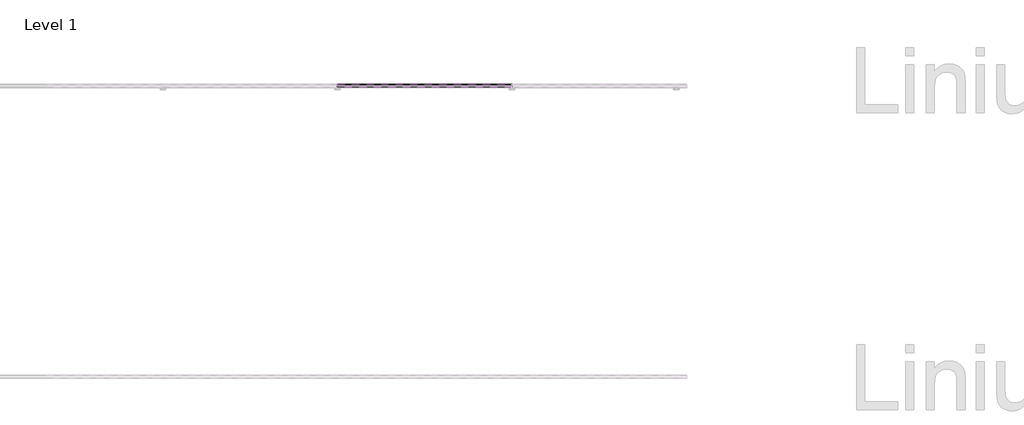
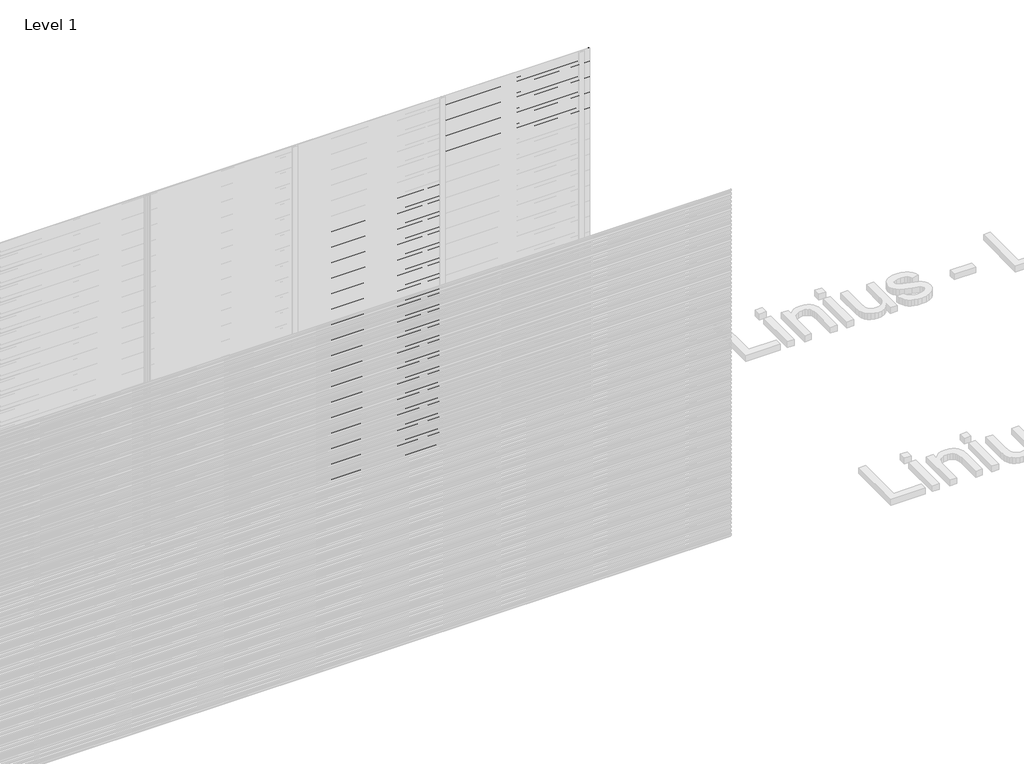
# One storey, part 63 of 507: 84 proxies.
"""IFC4 building model written with IfcOpenShell, lengths in millimetres."""

import ifcopenshell
import ifcopenshell.guid

model = None  # the IFC model being written
_history = None  # IfcOwnerHistory: only IFC2X3 demands one
_inside = {}  # id of a spatial element -> (the spatial element, [elements in it])
_under = {}  # id of a project, library or spatial element -> (it, [spatial elements below it])
_declared = {}  # id of a project -> (the project, [libraries it declares])
_typed = {}  # id of a type object -> (the type object, [elements of that type])
_made_of = {}  # id of a material, layer set ... -> (it, [elements and type objects made of it])


def new_model(schema):
    """Start an empty IFC model of exactly this schema.

    Asked for "IFC4X3", IfcOpenShell would pick the latest addendum, in which some entities
    have other attributes; the version numbers below select the first issue.
    IFC2X3 requires an IfcOwnerHistory on every rooted entity: one is made here for all.
    """
    global model, _history
    if schema == "IFC4X3":
        model = ifcopenshell.file(schema_version=(4, 3, 0, 0))
    else:
        model = ifcopenshell.file(schema=schema)
    _inside.clear()
    _under.clear()
    _declared.clear()
    _typed.clear()
    _made_of.clear()
    _history = None
    if model.schema == "IFC2X3":
        org = make("IfcOrganization", Name="unknown")
        user = make(
            "IfcPersonAndOrganization",
            ThePerson=make("IfcPerson", FamilyName="unknown"),
            TheOrganization=org,
        )
        app = make(
            "IfcApplication",
            ApplicationDeveloper=org,
            Version="unknown",
            ApplicationFullName="unknown",
            ApplicationIdentifier="unknown",
        )
        _history = make(
            "IfcOwnerHistory",
            OwningUser=user,
            OwningApplication=app,
            ChangeAction="ADDED",
            CreationDate=0,
        )
    return model


def make(cls, **values):
    """One entity of the class cls with the attributes given. An attribute that is None is left unset."""
    return model.create_entity(
        cls, **{name: value for name, value in values.items() if value is not None}
    )


def rooted(cls, **values):
    """An entity with a GlobalId (a new one), such as an element, a storey or a relation."""
    return make(cls, GlobalId=ifcopenshell.guid.new(), OwnerHistory=_history, **values)


def si_unit(unit_type, name, prefix=None):
    """IfcSIUnit, for example si_unit("LENGTHUNIT", "METRE", prefix="MILLI")."""
    return make("IfcSIUnit", UnitType=unit_type, Prefix=prefix, Name=name)


def assignment(units):
    """IfcUnitAssignment: the units of a project."""
    return None if units is None else make("IfcUnitAssignment", Units=units)


def point(xyz):
    """IfcCartesianPoint."""
    return None if xyz is None else make("IfcCartesianPoint", Coordinates=xyz)


def direction(xyz):
    """IfcDirection."""
    return None if xyz is None else make("IfcDirection", DirectionRatios=xyz)


def frame(location, z_axis=None, x_axis=None):
    """IfcAxis2Placement3D, a coordinate frame: its origin and axes. An axis left out is left unset."""
    return make(
        "IfcAxis2Placement3D",
        Location=point(location),
        Axis=direction(z_axis),
        RefDirection=direction(x_axis),
    )


def origin():
    """The frame at (0, 0, 0) with its axes left unset."""
    return frame((0.0, 0.0, 0.0))


def place(relative_to, where):
    """IfcLocalPlacement: puts the frame where relative to a parent placement (None: the world)."""
    return make(
        "IfcLocalPlacement", PlacementRelTo=relative_to, RelativePlacement=where
    )


def context(
    kind, dimensions, precision=None, world=None, true_north=None, identifier=None
):
    """IfcGeometricRepresentationContext, for example the 3D "Model" context."""
    return make(
        "IfcGeometricRepresentationContext",
        ContextIdentifier=identifier,
        ContextType=kind,
        CoordinateSpaceDimension=dimensions,
        Precision=precision,
        WorldCoordinateSystem=world,
        TrueNorth=true_north,
    )


def project(units=None, contexts=None):
    """IfcProject with its units and contexts."""
    return rooted(
        "IfcProject",
        Name="project",
        RepresentationContexts=contexts,
        UnitsInContext=assignment(units),
    )


def spatial(cls, under=None, at=None, **own):
    """A site, building, storey or space (cls), placed at a placement, below another one or the project."""
    s = rooted(cls, ObjectPlacement=at, **own)
    if under is not None:
        _under.setdefault(under.id(), (under, []))[1].append(s)
    return s


def polyline(points):
    """IfcPolyline through the points."""
    return make("IfcPolyline", Points=[point(p) for p in points])


def outline(outer, holes=None, kind="AREA"):
    """IfcArbitraryClosedProfileDef: a profile drawn as a closed curve; with holes, ...WithVoids."""
    if holes is None:
        return make("IfcArbitraryClosedProfileDef", ProfileType=kind, OuterCurve=outer)
    return make(
        "IfcArbitraryProfileDefWithVoids",
        ProfileType=kind,
        OuterCurve=outer,
        InnerCurves=holes,
    )


def extrude(swept, where, along, depth):
    """IfcExtrudedAreaSolid: the profile swept, set in the frame where, extruded along a direction by depth."""
    return make(
        "IfcExtrudedAreaSolid",
        SweptArea=swept,
        Position=where,
        ExtrudedDirection=direction(along),
        Depth=depth,
    )


def shape(context_of_items, identifier, shape_type, items):
    """IfcShapeRepresentation: the items that make up one representation, for example the "Body"."""
    return make(
        "IfcShapeRepresentation",
        ContextOfItems=context_of_items,
        RepresentationIdentifier=identifier,
        RepresentationType=shape_type,
        Items=items,
    )


def made_of(thing, what):
    """Note that an element or type object is made of a material, layer set ...; save() writes the relation."""
    if what is not None:
        _made_of.setdefault(what.id(), (what, []))[1].append(thing)
    return thing


def element(
    cls,
    number,
    at=None,
    inside=None,
    cuts=None,
    type_object=None,
    material=None,
    context=None,
    identifier="Body",
    shape_type=None,
    held_by="IfcProductDefinitionShape",
    body=None,
    shapes=None,
    **own,
):
    """One element of the class cls, such as IfcWall. Its Tag is "e" and its number.

    at: its placement. inside: the storey or other place that contains it. cuts: it is an
    opening in that element (IfcRelVoidsElement). A single representation is given by context,
    identifier, shape_type and body (its items); several are given by shapes. held_by: the class
    of the entity that holds the representations. save() writes the other relations.
    """
    e = rooted(cls, Tag="e%d" % number, ObjectPlacement=at, **own)
    if body is not None:
        shapes = [shape(context, identifier, shape_type, body)]
    if shapes is not None:
        e.Representation = make(held_by, Representations=shapes)
    if inside is not None:
        _inside.setdefault(inside.id(), (inside, []))[1].append(e)
    if cuts is not None:
        rooted(
            "IfcRelVoidsElement", RelatingBuildingElement=cuts, RelatedOpeningElement=e
        )
    if type_object is not None:
        _typed.setdefault(type_object.id(), (type_object, []))[1].append(e)
    return made_of(e, material)


def aggregate(whole, parts):
    """IfcRelAggregates: a whole, such as a stair, and the parts it consists of."""
    return rooted("IfcRelAggregates", RelatingObject=whole, RelatedObjects=parts)


def save(model, path):
    """Write the relations noted so far, then the file.

    IfcRelAggregates (storeys below a building ...), IfcRelContainedInSpatialStructure (elements
    in a storey), IfcRelDefinesByType, IfcRelAssociatesMaterial and IfcRelDeclares: one each for
    every whole, place, type object, material and project.
    """
    for whole, parts in _under.values():
        aggregate(whole, parts)
    for where, things in _inside.values():
        rooted(
            "IfcRelContainedInSpatialStructure",
            RelatedElements=things,
            RelatingStructure=where,
        )
    for kind, things in _typed.values():
        rooted("IfcRelDefinesByType", RelatedObjects=things, RelatingType=kind)
    for what, things in _made_of.values():
        rooted("IfcRelAssociatesMaterial", RelatedObjects=things, RelatingMaterial=what)
    for by, libraries in _declared.values():
        rooted("IfcRelDeclares", RelatingContext=by, RelatedDefinitions=libraries)
    model.write(path)


model = new_model("IFC4")

# Units and contexts
model_context = context("Model", 3, world=origin())
ifc_project = project(units=[si_unit("LENGTHUNIT", "METRE", prefix="MILLI")], contexts=[model_context])

# Site, building, storey
site = spatial("IfcSite", under=ifc_project)
building = spatial("IfcBuilding", under=site)
storey = spatial("IfcBuildingStorey", under=building, Name="Level 1", Elevation=0.0)

# Proxies
placement = place(None, origin())
element("IfcBuildingElementProxy", 1, Name="Wall Sweeps", at=placement, inside=storey, context=model_context, shape_type="SweptSolid", body=[
    extrude(outline(polyline([(44003.4540136, 2240.4), (44003.4540136, 2226.9), (44002.2040136, 2227.6216933), (44002.2040136, 2239.6782281), (43983.0540136, 2250.7345698), (43983.0540136, 2264.4), (43984.3040136, 2264.4), (43984.3040136, 2251.4562577), (44003.4540136, 2240.4)])), frame((48566.6208096, 0.0, 0.0), z_axis=(1.0, 0.0, 0.0), x_axis=(0.0, 1.0, 0.0)), (0.0, 0.0, 1.0), 1199.9999999),
])
element("IfcBuildingElementProxy", 2, Name="Wall Sweeps", at=placement, inside=storey, context=model_context, shape_type="SweptSolid", body=[
    extrude(outline(polyline([(44003.4540136, 2207.1), (44003.4540136, 2193.6), (44002.2040136, 2194.3216933), (44002.2040136, 2206.3782281), (43983.0540136, 2217.4345698), (43983.0540136, 2231.1), (43984.3040136, 2231.1), (43984.3040136, 2218.1562577), (44003.4540136, 2207.1)])), frame((48566.6208096, 0.0, 0.0), z_axis=(1.0, 0.0, 0.0), x_axis=(0.0, 1.0, 0.0)), (0.0, 0.0, 1.0), 1199.9999999),
])
element("IfcBuildingElementProxy", 3, Name="Wall Sweeps", at=placement, inside=storey, context=model_context, shape_type="SweptSolid", body=[
    extrude(outline(polyline([(44003.4540136, 2173.8), (44003.4540136, 2160.3), (44002.2040136, 2161.0216933), (44002.2040136, 2173.0782281), (43983.0540136, 2184.1345698), (43983.0540136, 2197.8), (43984.3040136, 2197.8), (43984.3040136, 2184.8562577), (44003.4540136, 2173.8)])), frame((48566.6208096, 0.0, 0.0), z_axis=(1.0, 0.0, 0.0), x_axis=(0.0, 1.0, 0.0)), (0.0, 0.0, 1.0), 1199.9999999),
])
element("IfcBuildingElementProxy", 4, Name="Wall Sweeps", at=placement, inside=storey, context=model_context, shape_type="SweptSolid", body=[
    extrude(outline(polyline([(44003.4540136, 2140.5), (44003.4540136, 2127.0), (44002.2040136, 2127.7216933), (44002.2040136, 2139.7782281), (43983.0540136, 2150.8345698), (43983.0540136, 2164.5), (43984.3040136, 2164.5), (43984.3040136, 2151.5562577), (44003.4540136, 2140.5)])), frame((48566.6208096, 0.0, 0.0), z_axis=(1.0, 0.0, 0.0), x_axis=(0.0, 1.0, 0.0)), (0.0, 0.0, 1.0), 1199.9999999),
])
element("IfcBuildingElementProxy", 5, Name="Wall Sweeps", at=placement, inside=storey, context=model_context, shape_type="SweptSolid", body=[
    extrude(outline(polyline([(44003.4540136, 2107.2), (44003.4540136, 2093.7), (44002.2040136, 2094.4216933), (44002.2040136, 2106.4782281), (43983.0540136, 2117.5345698), (43983.0540136, 2131.2), (43984.3040136, 2131.2), (43984.3040136, 2118.2562577), (44003.4540136, 2107.2)])), frame((48566.6208096, 0.0, 0.0), z_axis=(1.0, 0.0, 0.0), x_axis=(0.0, 1.0, 0.0)), (0.0, 0.0, 1.0), 1199.9999999),
])
element("IfcBuildingElementProxy", 6, Name="Wall Sweeps", at=placement, inside=storey, context=model_context, shape_type="SweptSolid", body=[
    extrude(outline(polyline([(44003.4540136, 2073.9), (44003.4540136, 2060.4), (44002.2040136, 2061.1216933), (44002.2040136, 2073.1782281), (43983.0540136, 2084.2345698), (43983.0540136, 2097.9), (43984.3040136, 2097.9), (43984.3040136, 2084.9562577), (44003.4540136, 2073.9)])), frame((48566.6208096, 0.0, 0.0), z_axis=(1.0, 0.0, 0.0), x_axis=(0.0, 1.0, 0.0)), (0.0, 0.0, 1.0), 1199.9999999),
])
element("IfcBuildingElementProxy", 7, Name="Wall Sweeps", at=placement, inside=storey, context=model_context, shape_type="SweptSolid", body=[
    extrude(outline(polyline([(44003.4540136, 2040.6), (44003.4540136, 2027.1), (44002.2040136, 2027.8216933), (44002.2040136, 2039.8782281), (43983.0540136, 2050.9345698), (43983.0540136, 2064.6), (43984.3040136, 2064.6), (43984.3040136, 2051.6562577), (44003.4540136, 2040.6)])), frame((48566.6208096, 0.0, 0.0), z_axis=(1.0, 0.0, 0.0), x_axis=(0.0, 1.0, 0.0)), (0.0, 0.0, 1.0), 1199.9999999),
])
element("IfcBuildingElementProxy", 8, Name="Wall Sweeps", at=placement, inside=storey, context=model_context, shape_type="SweptSolid", body=[
    extrude(outline(polyline([(44003.4540136, 2007.3), (44003.4540136, 1993.8), (44002.2040136, 1994.5216933), (44002.2040136, 2006.5782281), (43983.0540136, 2017.6345698), (43983.0540136, 2031.3), (43984.3040136, 2031.3), (43984.3040136, 2018.3562577), (44003.4540136, 2007.3)])), frame((48566.6208096, 0.0, 0.0), z_axis=(1.0, 0.0, 0.0), x_axis=(0.0, 1.0, 0.0)), (0.0, 0.0, 1.0), 1199.9999999),
])
element("IfcBuildingElementProxy", 9, Name="Wall Sweeps", at=placement, inside=storey, context=model_context, shape_type="SweptSolid", body=[
    extrude(outline(polyline([(44003.4540136, 1974.0), (44003.4540136, 1960.5), (44002.2040136, 1961.2216933), (44002.2040136, 1973.2782281), (43983.0540136, 1984.3345698), (43983.0540136, 1998.0), (43984.3040136, 1998.0), (43984.3040136, 1985.0562577), (44003.4540136, 1974.0)])), frame((48566.6208096, 0.0, 0.0), z_axis=(1.0, 0.0, 0.0), x_axis=(0.0, 1.0, 0.0)), (0.0, 0.0, 1.0), 1199.9999999),
])
element("IfcBuildingElementProxy", 10, Name="Wall Sweeps", at=placement, inside=storey, context=model_context, shape_type="SweptSolid", body=[
    extrude(outline(polyline([(44003.4540136, 1940.7), (44003.4540136, 1927.2), (44002.2040136, 1927.9216933), (44002.2040136, 1939.9782281), (43983.0540136, 1951.0345698), (43983.0540136, 1964.7), (43984.3040136, 1964.7), (43984.3040136, 1951.7562577), (44003.4540136, 1940.7)])), frame((48566.6208096, 0.0, 0.0), z_axis=(1.0, 0.0, 0.0), x_axis=(0.0, 1.0, 0.0)), (0.0, 0.0, 1.0), 1199.9999999),
])
element("IfcBuildingElementProxy", 11, Name="Wall Sweeps", at=placement, inside=storey, context=model_context, shape_type="SweptSolid", body=[
    extrude(outline(polyline([(44003.4540136, 1907.4), (44003.4540136, 1893.9), (44002.2040136, 1894.6216933), (44002.2040136, 1906.6782281), (43983.0540136, 1917.7345698), (43983.0540136, 1931.4), (43984.3040136, 1931.4), (43984.3040136, 1918.4562577), (44003.4540136, 1907.4)])), frame((48566.6208096, 0.0, 0.0), z_axis=(1.0, 0.0, 0.0), x_axis=(0.0, 1.0, 0.0)), (0.0, 0.0, 1.0), 1199.9999999),
])
element("IfcBuildingElementProxy", 12, Name="Wall Sweeps", at=placement, inside=storey, context=model_context, shape_type="SweptSolid", body=[
    extrude(outline(polyline([(44003.4540136, 1874.1), (44003.4540136, 1860.6), (44002.2040136, 1861.3216933), (44002.2040136, 1873.3782281), (43983.0540136, 1884.4345698), (43983.0540136, 1898.1), (43984.3040136, 1898.1), (43984.3040136, 1885.1562577), (44003.4540136, 1874.1)])), frame((48566.6208096, 0.0, 0.0), z_axis=(1.0, 0.0, 0.0), x_axis=(0.0, 1.0, 0.0)), (0.0, 0.0, 1.0), 1199.9999999),
])
element("IfcBuildingElementProxy", 13, Name="Wall Sweeps", at=placement, inside=storey, context=model_context, shape_type="SweptSolid", body=[
    extrude(outline(polyline([(44003.4540136, 1840.8), (44003.4540136, 1827.3), (44002.2040136, 1828.0216933), (44002.2040136, 1840.0782281), (43983.0540136, 1851.1345698), (43983.0540136, 1864.8), (43984.3040136, 1864.8), (43984.3040136, 1851.8562577), (44003.4540136, 1840.8)])), frame((48566.6208096, 0.0, 0.0), z_axis=(1.0, 0.0, 0.0), x_axis=(0.0, 1.0, 0.0)), (0.0, 0.0, 1.0), 1199.9999999),
])
element("IfcBuildingElementProxy", 14, Name="Wall Sweeps", at=placement, inside=storey, context=model_context, shape_type="SweptSolid", body=[
    extrude(outline(polyline([(44003.4540136, 1807.5), (44003.4540136, 1794.0), (44002.2040136, 1794.7216933), (44002.2040136, 1806.7782281), (43983.0540136, 1817.8345698), (43983.0540136, 1831.5), (43984.3040136, 1831.5), (43984.3040136, 1818.5562577), (44003.4540136, 1807.5)])), frame((48566.6208096, 0.0, 0.0), z_axis=(1.0, 0.0, 0.0), x_axis=(0.0, 1.0, 0.0)), (0.0, 0.0, 1.0), 1199.9999999),
])
element("IfcBuildingElementProxy", 15, Name="Wall Sweeps", at=placement, inside=storey, context=model_context, shape_type="SweptSolid", body=[
    extrude(outline(polyline([(44003.4540136, 1774.2), (44003.4540136, 1760.7), (44002.2040136, 1761.4216933), (44002.2040136, 1773.4782281), (43983.0540136, 1784.5345698), (43983.0540136, 1798.2), (43984.3040136, 1798.2), (43984.3040136, 1785.2562577), (44003.4540136, 1774.2)])), frame((48566.6208096, 0.0, 0.0), z_axis=(1.0, 0.0, 0.0), x_axis=(0.0, 1.0, 0.0)), (0.0, 0.0, 1.0), 1199.9999999),
])
element("IfcBuildingElementProxy", 16, Name="Wall Sweeps", at=placement, inside=storey, context=model_context, shape_type="SweptSolid", body=[
    extrude(outline(polyline([(44003.4540136, 1740.9), (44003.4540136, 1727.4), (44002.2040136, 1728.1216933), (44002.2040136, 1740.1782281), (43983.0540136, 1751.2345698), (43983.0540136, 1764.9), (43984.3040136, 1764.9), (43984.3040136, 1751.9562577), (44003.4540136, 1740.9)])), frame((48566.6208096, 0.0, 0.0), z_axis=(1.0, 0.0, 0.0), x_axis=(0.0, 1.0, 0.0)), (0.0, 0.0, 1.0), 1199.9999999),
])
element("IfcBuildingElementProxy", 17, Name="Wall Sweeps", at=placement, inside=storey, context=model_context, shape_type="SweptSolid", body=[
    extrude(outline(polyline([(44003.4540136, 1707.6), (44003.4540136, 1694.1), (44002.2040136, 1694.8216933), (44002.2040136, 1706.8782281), (43983.0540136, 1717.9345698), (43983.0540136, 1731.6), (43984.3040136, 1731.6), (43984.3040136, 1718.6562577), (44003.4540136, 1707.6)])), frame((48566.6208096, 0.0, 0.0), z_axis=(1.0, 0.0, 0.0), x_axis=(0.0, 1.0, 0.0)), (0.0, 0.0, 1.0), 1199.9999999),
])
element("IfcBuildingElementProxy", 18, Name="Wall Sweeps", at=placement, inside=storey, context=model_context, shape_type="SweptSolid", body=[
    extrude(outline(polyline([(44003.4540136, 1674.3), (44003.4540136, 1660.8), (44002.2040136, 1661.5216933), (44002.2040136, 1673.5782281), (43983.0540136, 1684.6345698), (43983.0540136, 1698.3), (43984.3040136, 1698.3), (43984.3040136, 1685.3562577), (44003.4540136, 1674.3)])), frame((48566.6208096, 0.0, 0.0), z_axis=(1.0, 0.0, 0.0), x_axis=(0.0, 1.0, 0.0)), (0.0, 0.0, 1.0), 1199.9999999),
])
element("IfcBuildingElementProxy", 19, Name="Wall Sweeps", at=placement, inside=storey, context=model_context, shape_type="SweptSolid", body=[
    extrude(outline(polyline([(44003.4540136, 1641.0), (44003.4540136, 1627.5), (44002.2040136, 1628.2216933), (44002.2040136, 1640.2782281), (43983.0540136, 1651.3345698), (43983.0540136, 1665.0), (43984.3040136, 1665.0), (43984.3040136, 1652.0562577), (44003.4540136, 1641.0)])), frame((48566.6208096, 0.0, 0.0), z_axis=(1.0, 0.0, 0.0), x_axis=(0.0, 1.0, 0.0)), (0.0, 0.0, 1.0), 1199.9999999),
])
element("IfcBuildingElementProxy", 20, Name="Wall Sweeps", at=placement, inside=storey, context=model_context, shape_type="SweptSolid", body=[
    extrude(outline(polyline([(44003.4540136, 1607.7), (44003.4540136, 1594.2), (44002.2040136, 1594.9216933), (44002.2040136, 1606.9782281), (43983.0540136, 1618.0345698), (43983.0540136, 1631.7), (43984.3040136, 1631.7), (43984.3040136, 1618.7562577), (44003.4540136, 1607.7)])), frame((48566.6208096, 0.0, 0.0), z_axis=(1.0, 0.0, 0.0), x_axis=(0.0, 1.0, 0.0)), (0.0, 0.0, 1.0), 1199.9999999),
])
element("IfcBuildingElementProxy", 21, Name="Wall Sweeps", at=placement, inside=storey, context=model_context, shape_type="SweptSolid", body=[
    extrude(outline(polyline([(44003.4540136, 1574.4), (44003.4540136, 1560.9), (44002.2040136, 1561.6216933), (44002.2040136, 1573.6782281), (43983.0540136, 1584.7345698), (43983.0540136, 1598.4), (43984.3040136, 1598.4), (43984.3040136, 1585.4562577), (44003.4540136, 1574.4)])), frame((48566.6208096, 0.0, 0.0), z_axis=(1.0, 0.0, 0.0), x_axis=(0.0, 1.0, 0.0)), (0.0, 0.0, 1.0), 1199.9999999),
])
element("IfcBuildingElementProxy", 22, Name="Wall Sweeps", at=placement, inside=storey, context=model_context, shape_type="SweptSolid", body=[
    extrude(outline(polyline([(44003.4540136, 1541.1), (44003.4540136, 1527.6), (44002.2040136, 1528.3216933), (44002.2040136, 1540.3782281), (43983.0540136, 1551.4345698), (43983.0540136, 1565.1), (43984.3040136, 1565.1), (43984.3040136, 1552.1562577), (44003.4540136, 1541.1)])), frame((48566.6208096, 0.0, 0.0), z_axis=(1.0, 0.0, 0.0), x_axis=(0.0, 1.0, 0.0)), (0.0, 0.0, 1.0), 1199.9999999),
])
element("IfcBuildingElementProxy", 23, Name="Wall Sweeps", at=placement, inside=storey, context=model_context, shape_type="SweptSolid", body=[
    extrude(outline(polyline([(44003.4540136, 1507.8), (44003.4540136, 1494.3), (44002.2040136, 1495.0216933), (44002.2040136, 1507.0782281), (43983.0540136, 1518.1345698), (43983.0540136, 1531.8), (43984.3040136, 1531.8), (43984.3040136, 1518.8562577), (44003.4540136, 1507.8)])), frame((48566.6208096, 0.0, 0.0), z_axis=(1.0, 0.0, 0.0), x_axis=(0.0, 1.0, 0.0)), (0.0, 0.0, 1.0), 1199.9999999),
])
element("IfcBuildingElementProxy", 24, Name="Wall Sweeps", at=placement, inside=storey, context=model_context, shape_type="SweptSolid", body=[
    extrude(outline(polyline([(44003.4540136, 1474.5), (44003.4540136, 1461.0), (44002.2040136, 1461.7216933), (44002.2040136, 1473.7782281), (43983.0540136, 1484.8345698), (43983.0540136, 1498.5), (43984.3040136, 1498.5), (43984.3040136, 1485.5562577), (44003.4540136, 1474.5)])), frame((48566.6208096, 0.0, 0.0), z_axis=(1.0, 0.0, 0.0), x_axis=(0.0, 1.0, 0.0)), (0.0, 0.0, 1.0), 1199.9999999),
])
element("IfcBuildingElementProxy", 25, Name="Wall Sweeps", at=placement, inside=storey, context=model_context, shape_type="SweptSolid", body=[
    extrude(outline(polyline([(44003.4540136, 1441.2), (44003.4540136, 1427.7), (44002.2040136, 1428.4216933), (44002.2040136, 1440.4782281), (43983.0540136, 1451.5345698), (43983.0540136, 1465.2), (43984.3040136, 1465.2), (43984.3040136, 1452.2562577), (44003.4540136, 1441.2)])), frame((48566.6208096, 0.0, 0.0), z_axis=(1.0, 0.0, 0.0), x_axis=(0.0, 1.0, 0.0)), (0.0, 0.0, 1.0), 1199.9999999),
])
element("IfcBuildingElementProxy", 26, Name="Wall Sweeps", at=placement, inside=storey, context=model_context, shape_type="SweptSolid", body=[
    extrude(outline(polyline([(44003.4540136, 1407.9), (44003.4540136, 1394.4), (44002.2040136, 1395.1216933), (44002.2040136, 1407.1782281), (43983.0540136, 1418.2345698), (43983.0540136, 1431.9), (43984.3040136, 1431.9), (43984.3040136, 1418.9562577), (44003.4540136, 1407.9)])), frame((48566.6208096, 0.0, 0.0), z_axis=(1.0, 0.0, 0.0), x_axis=(0.0, 1.0, 0.0)), (0.0, 0.0, 1.0), 1199.9999999),
])
element("IfcBuildingElementProxy", 27, Name="Wall Sweeps", at=placement, inside=storey, context=model_context, shape_type="SweptSolid", body=[
    extrude(outline(polyline([(44003.4540136, 1374.6), (44003.4540136, 1361.1), (44002.2040136, 1361.8216933), (44002.2040136, 1373.8782281), (43983.0540136, 1384.9345698), (43983.0540136, 1398.6), (43984.3040136, 1398.6), (43984.3040136, 1385.6562577), (44003.4540136, 1374.6)])), frame((48566.6208096, 0.0, 0.0), z_axis=(1.0, 0.0, 0.0), x_axis=(0.0, 1.0, 0.0)), (0.0, 0.0, 1.0), 1199.9999999),
])
element("IfcBuildingElementProxy", 28, Name="Wall Sweeps", at=placement, inside=storey, context=model_context, shape_type="SweptSolid", body=[
    extrude(outline(polyline([(44003.4540136, 1341.3), (44003.4540136, 1327.8), (44002.2040136, 1328.5216933), (44002.2040136, 1340.5782281), (43983.0540136, 1351.6345698), (43983.0540136, 1365.3), (43984.3040136, 1365.3), (43984.3040136, 1352.3562577), (44003.4540136, 1341.3)])), frame((48566.6208096, 0.0, 0.0), z_axis=(1.0, 0.0, 0.0), x_axis=(0.0, 1.0, 0.0)), (0.0, 0.0, 1.0), 1199.9999999),
])
element("IfcBuildingElementProxy", 29, Name="Wall Sweeps", at=placement, inside=storey, context=model_context, shape_type="SweptSolid", body=[
    extrude(outline(polyline([(44003.4540136, 1308.0), (44003.4540136, 1294.5), (44002.2040136, 1295.2216933), (44002.2040136, 1307.2782281), (43983.0540136, 1318.3345698), (43983.0540136, 1332.0), (43984.3040136, 1332.0), (43984.3040136, 1319.0562577), (44003.4540136, 1308.0)])), frame((48566.6208096, 0.0, 0.0), z_axis=(1.0, 0.0, 0.0), x_axis=(0.0, 1.0, 0.0)), (0.0, 0.0, 1.0), 1199.9999999),
])
element("IfcBuildingElementProxy", 30, Name="Wall Sweeps", at=placement, inside=storey, context=model_context, shape_type="SweptSolid", body=[
    extrude(outline(polyline([(44003.4540136, 1274.7), (44003.4540136, 1261.2), (44002.2040136, 1261.9216933), (44002.2040136, 1273.9782281), (43983.0540136, 1285.0345698), (43983.0540136, 1298.7), (43984.3040136, 1298.7), (43984.3040136, 1285.7562577), (44003.4540136, 1274.7)])), frame((48566.6208096, 0.0, 0.0), z_axis=(1.0, 0.0, 0.0), x_axis=(0.0, 1.0, 0.0)), (0.0, 0.0, 1.0), 1199.9999999),
])
element("IfcBuildingElementProxy", 31, Name="Wall Sweeps", at=placement, inside=storey, context=model_context, shape_type="SweptSolid", body=[
    extrude(outline(polyline([(44003.4540136, 1241.4), (44003.4540136, 1227.9), (44002.2040136, 1228.6216933), (44002.2040136, 1240.6782281), (43983.0540136, 1251.7345698), (43983.0540136, 1265.4), (43984.3040136, 1265.4), (43984.3040136, 1252.4562577), (44003.4540136, 1241.4)])), frame((48566.6208096, 0.0, 0.0), z_axis=(1.0, 0.0, 0.0), x_axis=(0.0, 1.0, 0.0)), (0.0, 0.0, 1.0), 1199.9999999),
])
element("IfcBuildingElementProxy", 32, Name="Wall Sweeps", at=placement, inside=storey, context=model_context, shape_type="SweptSolid", body=[
    extrude(outline(polyline([(44003.4540136, 1208.1), (44003.4540136, 1194.6), (44002.2040136, 1195.3216933), (44002.2040136, 1207.3782281), (43983.0540136, 1218.4345698), (43983.0540136, 1232.1), (43984.3040136, 1232.1), (43984.3040136, 1219.1562577), (44003.4540136, 1208.1)])), frame((48566.6208096, 0.0, 0.0), z_axis=(1.0, 0.0, 0.0), x_axis=(0.0, 1.0, 0.0)), (0.0, 0.0, 1.0), 1199.9999999),
])
element("IfcBuildingElementProxy", 33, Name="Wall Sweeps", at=placement, inside=storey, context=model_context, shape_type="SweptSolid", body=[
    extrude(outline(polyline([(44003.4540136, 1174.8), (44003.4540136, 1161.3), (44002.2040136, 1162.0216933), (44002.2040136, 1174.0782281), (43983.0540136, 1185.1345698), (43983.0540136, 1198.8), (43984.3040136, 1198.8), (43984.3040136, 1185.8562577), (44003.4540136, 1174.8)])), frame((48566.6208096, 0.0, 0.0), z_axis=(1.0, 0.0, 0.0), x_axis=(0.0, 1.0, 0.0)), (0.0, 0.0, 1.0), 1199.9999999),
])
element("IfcBuildingElementProxy", 34, Name="Wall Sweeps", at=placement, inside=storey, context=model_context, shape_type="SweptSolid", body=[
    extrude(outline(polyline([(44003.4540136, 1141.5), (44003.4540136, 1128.0), (44002.2040136, 1128.7216933), (44002.2040136, 1140.7782281), (43983.0540136, 1151.8345698), (43983.0540136, 1165.5), (43984.3040136, 1165.5), (43984.3040136, 1152.5562577), (44003.4540136, 1141.5)])), frame((48566.6208096, 0.0, 0.0), z_axis=(1.0, 0.0, 0.0), x_axis=(0.0, 1.0, 0.0)), (0.0, 0.0, 1.0), 1199.9999999),
])
element("IfcBuildingElementProxy", 35, Name="Wall Sweeps", at=placement, inside=storey, context=model_context, shape_type="SweptSolid", body=[
    extrude(outline(polyline([(44003.4540136, 1108.2), (44003.4540136, 1094.7), (44002.2040136, 1095.4216933), (44002.2040136, 1107.4782281), (43983.0540136, 1118.5345698), (43983.0540136, 1132.2), (43984.3040136, 1132.2), (43984.3040136, 1119.2562577), (44003.4540136, 1108.2)])), frame((48566.6208096, 0.0, 0.0), z_axis=(1.0, 0.0, 0.0), x_axis=(0.0, 1.0, 0.0)), (0.0, 0.0, 1.0), 1199.9999999),
])
element("IfcBuildingElementProxy", 36, Name="Wall Sweeps", at=placement, inside=storey, context=model_context, shape_type="SweptSolid", body=[
    extrude(outline(polyline([(44003.4540136, 1074.9), (44003.4540136, 1061.4), (44002.2040136, 1062.1216933), (44002.2040136, 1074.1782281), (43983.0540136, 1085.2345698), (43983.0540136, 1098.9), (43984.3040136, 1098.9), (43984.3040136, 1085.9562577), (44003.4540136, 1074.9)])), frame((48566.6208096, 0.0, 0.0), z_axis=(1.0, 0.0, 0.0), x_axis=(0.0, 1.0, 0.0)), (0.0, 0.0, 1.0), 1199.9999999),
])
element("IfcBuildingElementProxy", 37, Name="Wall Sweeps", at=placement, inside=storey, context=model_context, shape_type="SweptSolid", body=[
    extrude(outline(polyline([(44003.4540136, 1041.6), (44003.4540136, 1028.1), (44002.2040136, 1028.8216933), (44002.2040136, 1040.8782281), (43983.0540136, 1051.9345698), (43983.0540136, 1065.6), (43984.3040136, 1065.6), (43984.3040136, 1052.6562577), (44003.4540136, 1041.6)])), frame((48566.6208096, 0.0, 0.0), z_axis=(1.0, 0.0, 0.0), x_axis=(0.0, 1.0, 0.0)), (0.0, 0.0, 1.0), 1199.9999999),
])
element("IfcBuildingElementProxy", 38, Name="Wall Sweeps", at=placement, inside=storey, context=model_context, shape_type="SweptSolid", body=[
    extrude(outline(polyline([(44003.4540136, 1008.3), (44003.4540136, 994.8), (44002.2040136, 995.5216933), (44002.2040136, 1007.5782281), (43983.0540136, 1018.6345698), (43983.0540136, 1032.3), (43984.3040136, 1032.3), (43984.3040136, 1019.3562577), (44003.4540136, 1008.3)])), frame((48566.6208096, 0.0, 0.0), z_axis=(1.0, 0.0, 0.0), x_axis=(0.0, 1.0, 0.0)), (0.0, 0.0, 1.0), 1199.9999999),
])
element("IfcBuildingElementProxy", 39, Name="Wall Sweeps", at=placement, inside=storey, context=model_context, shape_type="SweptSolid", body=[
    extrude(outline(polyline([(44003.4540136, 975.0), (44003.4540136, 961.5), (44002.2040136, 962.2216933), (44002.2040136, 974.2782281), (43983.0540136, 985.3345698), (43983.0540136, 999.0), (43984.3040136, 999.0), (43984.3040136, 986.0562577), (44003.4540136, 975.0)])), frame((48566.6208096, 0.0, 0.0), z_axis=(1.0, 0.0, 0.0), x_axis=(0.0, 1.0, 0.0)), (0.0, 0.0, 1.0), 1199.9999999),
])
element("IfcBuildingElementProxy", 40, Name="Wall Sweeps", at=placement, inside=storey, context=model_context, shape_type="SweptSolid", body=[
    extrude(outline(polyline([(44003.4540136, 941.7), (44003.4540136, 928.2), (44002.2040136, 928.9216933), (44002.2040136, 940.9782281), (43983.0540136, 952.0345698), (43983.0540136, 965.7), (43984.3040136, 965.7), (43984.3040136, 952.7562577), (44003.4540136, 941.7)])), frame((48566.6208096, 0.0, 0.0), z_axis=(1.0, 0.0, 0.0), x_axis=(0.0, 1.0, 0.0)), (0.0, 0.0, 1.0), 1199.9999999),
])
element("IfcBuildingElementProxy", 41, Name="Wall Sweeps", at=placement, inside=storey, context=model_context, shape_type="SweptSolid", body=[
    extrude(outline(polyline([(44003.4540136, 908.4), (44003.4540136, 894.9), (44002.2040136, 895.6216933), (44002.2040136, 907.6782281), (43983.0540136, 918.7345698), (43983.0540136, 932.4), (43984.3040136, 932.4), (43984.3040136, 919.4562577), (44003.4540136, 908.4)])), frame((48566.6208096, 0.0, 0.0), z_axis=(1.0, 0.0, 0.0), x_axis=(0.0, 1.0, 0.0)), (0.0, 0.0, 1.0), 1199.9999999),
])
element("IfcBuildingElementProxy", 42, Name="Wall Sweeps", at=placement, inside=storey, context=model_context, shape_type="SweptSolid", body=[
    extrude(outline(polyline([(44003.4540136, 875.1), (44003.4540136, 861.6), (44002.2040136, 862.3216933), (44002.2040136, 874.3782281), (43983.0540136, 885.4345698), (43983.0540136, 899.1), (43984.3040136, 899.1), (43984.3040136, 886.1562577), (44003.4540136, 875.1)])), frame((48566.6208096, 0.0, 0.0), z_axis=(1.0, 0.0, 0.0), x_axis=(0.0, 1.0, 0.0)), (0.0, 0.0, 1.0), 1199.9999999),
])
element("IfcBuildingElementProxy", 43, Name="Wall Sweeps", at=placement, inside=storey, context=model_context, shape_type="SweptSolid", body=[
    extrude(outline(polyline([(44003.4540136, 841.8), (44003.4540136, 828.3), (44002.2040136, 829.0216933), (44002.2040136, 841.0782281), (43983.0540136, 852.1345698), (43983.0540136, 865.8), (43984.3040136, 865.8), (43984.3040136, 852.8562577), (44003.4540136, 841.8)])), frame((48566.6208096, 0.0, 0.0), z_axis=(1.0, 0.0, 0.0), x_axis=(0.0, 1.0, 0.0)), (0.0, 0.0, 1.0), 1199.9999999),
])
element("IfcBuildingElementProxy", 44, Name="Wall Sweeps", at=placement, inside=storey, context=model_context, shape_type="SweptSolid", body=[
    extrude(outline(polyline([(44003.4540136, 808.5), (44003.4540136, 795.0), (44002.2040136, 795.7216933), (44002.2040136, 807.7782281), (43983.0540136, 818.8345698), (43983.0540136, 832.5), (43984.3040136, 832.5), (43984.3040136, 819.5562577), (44003.4540136, 808.5)])), frame((48566.6208096, 0.0, 0.0), z_axis=(1.0, 0.0, 0.0), x_axis=(0.0, 1.0, 0.0)), (0.0, 0.0, 1.0), 1199.9999999),
])
element("IfcBuildingElementProxy", 45, Name="Wall Sweeps", at=placement, inside=storey, context=model_context, shape_type="SweptSolid", body=[
    extrude(outline(polyline([(44003.4540136, 775.2), (44003.4540136, 761.7), (44002.2040136, 762.4216933), (44002.2040136, 774.4782281), (43983.0540136, 785.5345698), (43983.0540136, 799.2), (43984.3040136, 799.2), (43984.3040136, 786.2562577), (44003.4540136, 775.2)])), frame((48566.6208096, 0.0, 0.0), z_axis=(1.0, 0.0, 0.0), x_axis=(0.0, 1.0, 0.0)), (0.0, 0.0, 1.0), 1199.9999999),
])
element("IfcBuildingElementProxy", 46, Name="Wall Sweeps", at=placement, inside=storey, context=model_context, shape_type="SweptSolid", body=[
    extrude(outline(polyline([(44003.4540136, 741.9), (44003.4540136, 728.4), (44002.2040136, 729.1216933), (44002.2040136, 741.1782281), (43983.0540136, 752.2345698), (43983.0540136, 765.9), (43984.3040136, 765.9), (43984.3040136, 752.9562577), (44003.4540136, 741.9)])), frame((48566.6208096, 0.0, 0.0), z_axis=(1.0, 0.0, 0.0), x_axis=(0.0, 1.0, 0.0)), (0.0, 0.0, 1.0), 1199.9999999),
])
element("IfcBuildingElementProxy", 47, Name="Wall Sweeps", at=placement, inside=storey, context=model_context, shape_type="SweptSolid", body=[
    extrude(outline(polyline([(44003.4540136, 708.6), (44003.4540136, 695.1), (44002.2040136, 695.8216933), (44002.2040136, 707.8782281), (43983.0540136, 718.9345698), (43983.0540136, 732.6), (43984.3040136, 732.6), (43984.3040136, 719.6562577), (44003.4540136, 708.6)])), frame((48566.6208096, 0.0, 0.0), z_axis=(1.0, 0.0, 0.0), x_axis=(0.0, 1.0, 0.0)), (0.0, 0.0, 1.0), 1199.9999999),
])
element("IfcBuildingElementProxy", 48, Name="Wall Sweeps", at=placement, inside=storey, context=model_context, shape_type="SweptSolid", body=[
    extrude(outline(polyline([(44003.4540136, 675.3), (44003.4540136, 661.8), (44002.2040136, 662.5216933), (44002.2040136, 674.5782281), (43983.0540136, 685.6345698), (43983.0540136, 699.3), (43984.3040136, 699.3), (43984.3040136, 686.3562577), (44003.4540136, 675.3)])), frame((48566.6208096, 0.0, 0.0), z_axis=(1.0, 0.0, 0.0), x_axis=(0.0, 1.0, 0.0)), (0.0, 0.0, 1.0), 1199.9999999),
])
element("IfcBuildingElementProxy", 49, Name="Wall Sweeps", at=placement, inside=storey, context=model_context, shape_type="SweptSolid", body=[
    extrude(outline(polyline([(44003.4540136, 642.0), (44003.4540136, 628.5), (44002.2040136, 629.2216933), (44002.2040136, 641.2782281), (43983.0540136, 652.3345698), (43983.0540136, 666.0), (43984.3040136, 666.0), (43984.3040136, 653.0562577), (44003.4540136, 642.0)])), frame((48566.6208096, 0.0, 0.0), z_axis=(1.0, 0.0, 0.0), x_axis=(0.0, 1.0, 0.0)), (0.0, 0.0, 1.0), 1199.9999999),
])
element("IfcBuildingElementProxy", 50, Name="Wall Sweeps", at=placement, inside=storey, context=model_context, shape_type="SweptSolid", body=[
    extrude(outline(polyline([(44003.4540136, 608.7), (44003.4540136, 595.2), (44002.2040136, 595.9216933), (44002.2040136, 607.9782281), (43983.0540136, 619.0345698), (43983.0540136, 632.7), (43984.3040136, 632.7), (43984.3040136, 619.7562577), (44003.4540136, 608.7)])), frame((48566.6208096, 0.0, 0.0), z_axis=(1.0, 0.0, 0.0), x_axis=(0.0, 1.0, 0.0)), (0.0, 0.0, 1.0), 1199.9999999),
])
element("IfcBuildingElementProxy", 51, Name="Wall Sweeps", at=placement, inside=storey, context=model_context, shape_type="SweptSolid", body=[
    extrude(outline(polyline([(44003.4540136, 575.4), (44003.4540136, 561.9), (44002.2040136, 562.6216933), (44002.2040136, 574.6782281), (43983.0540136, 585.7345698), (43983.0540136, 599.4), (43984.3040136, 599.4), (43984.3040136, 586.4562577), (44003.4540136, 575.4)])), frame((48566.6208096, 0.0, 0.0), z_axis=(1.0, 0.0, 0.0), x_axis=(0.0, 1.0, 0.0)), (0.0, 0.0, 1.0), 1199.9999999),
])
element("IfcBuildingElementProxy", 52, Name="Wall Sweeps", at=placement, inside=storey, context=model_context, shape_type="SweptSolid", body=[
    extrude(outline(polyline([(44003.4540136, 542.1), (44003.4540136, 528.6), (44002.2040136, 529.3216933), (44002.2040136, 541.3782281), (43983.0540136, 552.4345698), (43983.0540136, 566.1), (43984.3040136, 566.1), (43984.3040136, 553.1562577), (44003.4540136, 542.1)])), frame((48566.6208096, 0.0, 0.0), z_axis=(1.0, 0.0, 0.0), x_axis=(0.0, 1.0, 0.0)), (0.0, 0.0, 1.0), 1199.9999999),
])
element("IfcBuildingElementProxy", 53, Name="Wall Sweeps", at=placement, inside=storey, context=model_context, shape_type="SweptSolid", body=[
    extrude(outline(polyline([(44003.4540136, 508.8), (44003.4540136, 495.3), (44002.2040136, 496.0216933), (44002.2040136, 508.0782281), (43983.0540136, 519.1345698), (43983.0540136, 532.8), (43984.3040136, 532.8), (43984.3040136, 519.8562577), (44003.4540136, 508.8)])), frame((48566.6208096, 0.0, 0.0), z_axis=(1.0, 0.0, 0.0), x_axis=(0.0, 1.0, 0.0)), (0.0, 0.0, 1.0), 1199.9999999),
])
element("IfcBuildingElementProxy", 54, Name="Wall Sweeps", at=placement, inside=storey, context=model_context, shape_type="SweptSolid", body=[
    extrude(outline(polyline([(44003.4540136, 475.5), (44003.4540136, 462.0), (44002.2040136, 462.7216933), (44002.2040136, 474.7782281), (43983.0540136, 485.8345698), (43983.0540136, 499.5), (43984.3040136, 499.5), (43984.3040136, 486.5562577), (44003.4540136, 475.5)])), frame((48566.6208096, 0.0, 0.0), z_axis=(1.0, 0.0, 0.0), x_axis=(0.0, 1.0, 0.0)), (0.0, 0.0, 1.0), 1199.9999999),
])
element("IfcBuildingElementProxy", 55, Name="Wall Sweeps", at=placement, inside=storey, context=model_context, shape_type="SweptSolid", body=[
    extrude(outline(polyline([(44003.4540136, 442.2), (44003.4540136, 428.7), (44002.2040136, 429.4216933), (44002.2040136, 441.4782281), (43983.0540136, 452.5345698), (43983.0540136, 466.2), (43984.3040136, 466.2), (43984.3040136, 453.2562577), (44003.4540136, 442.2)])), frame((48566.6208096, 0.0, 0.0), z_axis=(1.0, 0.0, 0.0), x_axis=(0.0, 1.0, 0.0)), (0.0, 0.0, 1.0), 1199.9999999),
])
element("IfcBuildingElementProxy", 56, Name="Wall Sweeps", at=placement, inside=storey, context=model_context, shape_type="SweptSolid", body=[
    extrude(outline(polyline([(44003.4540136, 408.9), (44003.4540136, 395.4), (44002.2040136, 396.1216933), (44002.2040136, 408.1782281), (43983.0540136, 419.2345698), (43983.0540136, 432.9), (43984.3040136, 432.9), (43984.3040136, 419.9562577), (44003.4540136, 408.9)])), frame((48566.6208096, 0.0, 0.0), z_axis=(1.0, 0.0, 0.0), x_axis=(0.0, 1.0, 0.0)), (0.0, 0.0, 1.0), 1199.9999999),
])
element("IfcBuildingElementProxy", 57, Name="Wall Sweeps", at=placement, inside=storey, context=model_context, shape_type="SweptSolid", body=[
    extrude(outline(polyline([(44003.4540136, 375.6), (44003.4540136, 362.1), (44002.2040136, 362.8216933), (44002.2040136, 374.8782281), (43983.0540136, 385.9345698), (43983.0540136, 399.6), (43984.3040136, 399.6), (43984.3040136, 386.6562577), (44003.4540136, 375.6)])), frame((48566.6208096, 0.0, 0.0), z_axis=(1.0, 0.0, 0.0), x_axis=(0.0, 1.0, 0.0)), (0.0, 0.0, 1.0), 1199.9999999),
])
element("IfcBuildingElementProxy", 58, Name="Wall Sweeps", at=placement, inside=storey, context=model_context, shape_type="SweptSolid", body=[
    extrude(outline(polyline([(44003.4540136, 342.3), (44003.4540136, 328.8), (44002.2040136, 329.5216933), (44002.2040136, 341.5782281), (43983.0540136, 352.6345698), (43983.0540136, 366.3), (43984.3040136, 366.3), (43984.3040136, 353.3562577), (44003.4540136, 342.3)])), frame((48566.6208096, 0.0, 0.0), z_axis=(1.0, 0.0, 0.0), x_axis=(0.0, 1.0, 0.0)), (0.0, 0.0, 1.0), 1199.9999999),
])
element("IfcBuildingElementProxy", 59, Name="Wall Sweeps", at=placement, inside=storey, context=model_context, shape_type="SweptSolid", body=[
    extrude(outline(polyline([(44003.4540136, 309.0), (44003.4540136, 295.5), (44002.2040136, 296.2216933), (44002.2040136, 308.2782281), (43983.0540136, 319.3345698), (43983.0540136, 333.0), (43984.3040136, 333.0), (43984.3040136, 320.0562577), (44003.4540136, 309.0)])), frame((48566.6208096, 0.0, 0.0), z_axis=(1.0, 0.0, 0.0), x_axis=(0.0, 1.0, 0.0)), (0.0, 0.0, 1.0), 1199.9999999),
])
element("IfcBuildingElementProxy", 60, Name="Wall Sweeps", at=placement, inside=storey, context=model_context, shape_type="SweptSolid", body=[
    extrude(outline(polyline([(44003.4540136, 275.7), (44003.4540136, 262.2), (44002.2040136, 262.9216933), (44002.2040136, 274.9782281), (43983.0540136, 286.0345698), (43983.0540136, 299.7), (43984.3040136, 299.7), (43984.3040136, 286.7562577), (44003.4540136, 275.7)])), frame((48566.6208096, 0.0, 0.0), z_axis=(1.0, 0.0, 0.0), x_axis=(0.0, 1.0, 0.0)), (0.0, 0.0, 1.0), 1199.9999999),
])
element("IfcBuildingElementProxy", 61, Name="Wall Sweeps", at=placement, inside=storey, context=model_context, shape_type="SweptSolid", body=[
    extrude(outline(polyline([(44003.4540136, 242.4), (44003.4540136, 228.9), (44002.2040136, 229.6216933), (44002.2040136, 241.6782281), (43983.0540136, 252.7345698), (43983.0540136, 266.4), (43984.3040136, 266.4), (43984.3040136, 253.4562577), (44003.4540136, 242.4)])), frame((48566.6208096, 0.0, 0.0), z_axis=(1.0, 0.0, 0.0), x_axis=(0.0, 1.0, 0.0)), (0.0, 0.0, 1.0), 1199.9999999),
])
element("IfcBuildingElementProxy", 62, Name="Wall Sweeps", at=placement, inside=storey, context=model_context, shape_type="SweptSolid", body=[
    extrude(outline(polyline([(44003.4540136, 209.1), (44003.4540136, 195.6), (44002.2040136, 196.3216933), (44002.2040136, 208.3782281), (43983.0540136, 219.4345698), (43983.0540136, 233.1), (43984.3040136, 233.1), (43984.3040136, 220.1562577), (44003.4540136, 209.1)])), frame((48566.6208096, 0.0, 0.0), z_axis=(1.0, 0.0, 0.0), x_axis=(0.0, 1.0, 0.0)), (0.0, 0.0, 1.0), 1199.9999999),
])
element("IfcBuildingElementProxy", 63, Name="Wall Sweeps", at=placement, inside=storey, context=model_context, shape_type="SweptSolid", body=[
    extrude(outline(polyline([(44003.4540136, 175.8), (44003.4540136, 162.3), (44002.2040136, 163.0216933), (44002.2040136, 175.0782281), (43983.0540136, 186.1345698), (43983.0540136, 199.8), (43984.3040136, 199.8), (43984.3040136, 186.8562577), (44003.4540136, 175.8)])), frame((48566.6208096, 0.0, 0.0), z_axis=(1.0, 0.0, 0.0), x_axis=(0.0, 1.0, 0.0)), (0.0, 0.0, 1.0), 1199.9999999),
])
element("IfcBuildingElementProxy", 64, Name="Wall Sweeps", at=placement, inside=storey, context=model_context, shape_type="SweptSolid", body=[
    extrude(outline(polyline([(44003.4540136, 142.5), (44003.4540136, 129.0), (44002.2040136, 129.7216933), (44002.2040136, 141.7782281), (43983.0540136, 152.8345698), (43983.0540136, 166.5), (43984.3040136, 166.5), (43984.3040136, 153.5562577), (44003.4540136, 142.5)])), frame((48566.6208096, 0.0, 0.0), z_axis=(1.0, 0.0, 0.0), x_axis=(0.0, 1.0, 0.0)), (0.0, 0.0, 1.0), 1199.9999999),
])
element("IfcBuildingElementProxy", 65, Name="Wall Sweeps", at=placement, inside=storey, context=model_context, shape_type="SweptSolid", body=[
    extrude(outline(polyline([(44003.4540136, 109.2), (44003.4540136, 95.7), (44002.2040136, 96.4216933), (44002.2040136, 108.4782281), (43983.0540136, 119.5345698), (43983.0540136, 133.2), (43984.3040136, 133.2), (43984.3040136, 120.2562577), (44003.4540136, 109.2)])), frame((48566.6208096, 0.0, 0.0), z_axis=(1.0, 0.0, 0.0), x_axis=(0.0, 1.0, 0.0)), (0.0, 0.0, 1.0), 1199.9999999),
])
element("IfcBuildingElementProxy", 66, Name="Wall Sweeps", at=placement, inside=storey, context=model_context, shape_type="SweptSolid", body=[
    extrude(outline(polyline([(44003.4540136, 75.9), (44003.4540136, 62.4), (44002.2040136, 63.1216933), (44002.2040136, 75.1782281), (43983.0540136, 86.2345698), (43983.0540136, 99.9), (43984.3040136, 99.9), (43984.3040136, 86.9562577), (44003.4540136, 75.9)])), frame((48566.6208096, 0.0, 0.0), z_axis=(1.0, 0.0, 0.0), x_axis=(0.0, 1.0, 0.0)), (0.0, 0.0, 1.0), 1199.9999999),
])
element("IfcBuildingElementProxy", 67, Name="Wall Sweeps", at=placement, inside=storey, context=model_context, shape_type="SweptSolid", body=[
    extrude(outline(polyline([(44003.4540136, 42.6), (44003.4540136, 29.1), (44002.2040136, 29.8216933), (44002.2040136, 41.8782281), (43983.0540136, 52.9345698), (43983.0540136, 66.6), (43984.3040136, 66.6), (43984.3040136, 53.6562577), (44003.4540136, 42.6)])), frame((48566.6208096, 0.0, 0.0), z_axis=(1.0, 0.0, 0.0), x_axis=(0.0, 1.0, 0.0)), (0.0, 0.0, 1.0), 1199.9999999),
])
element("IfcBuildingElementProxy", 68, Name="Wall Sweeps", at=placement, inside=storey, context=model_context, shape_type="SweptSolid", body=[
    extrude(outline(polyline([(44003.4540136, 9.3), (44003.4540136, -4.2), (44002.2040136, -3.4783067), (44002.2040136, 8.5782281), (43983.0540136, 19.6345698), (43983.0540136, 33.3), (43984.3040136, 33.3), (43984.3040136, 20.3562577), (44003.4540136, 9.3)])), frame((48566.6208096, 0.0, 0.0), z_axis=(1.0, 0.0, 0.0), x_axis=(0.0, 1.0, 0.0)), (0.0, 0.0, 1.0), 1199.9999999),
])
element("IfcBuildingElementProxy", 69, Name="Wall Sweeps", at=placement, inside=storey, context=model_context, shape_type="SweptSolid", body=[
    extrude(outline(polyline([(44003.4540136, 2973.0), (44003.4540136, 2959.5), (44002.2040136, 2960.2216933), (44002.2040136, 2972.2782281), (43983.0540136, 2983.3345698), (43983.0540136, 2997.0), (43984.3040136, 2997.0), (43984.3040136, 2984.0562577), (44003.4540136, 2973.0)])), frame((49766.6208095, 0.0, 0.0), z_axis=(1.0, 0.0, 0.0), x_axis=(0.0, 1.0, 0.0)), (0.0, 0.0, 1.0), 1200.0000002),
])
element("IfcBuildingElementProxy", 70, Name="Wall Sweeps", at=placement, inside=storey, context=model_context, shape_type="SweptSolid", body=[
    extrude(outline(polyline([(44003.4540136, 2939.7), (44003.4540136, 2926.2), (44002.2040136, 2926.9216933), (44002.2040136, 2938.9782281), (43983.0540136, 2950.0345698), (43983.0540136, 2963.7), (43984.3040136, 2963.7), (43984.3040136, 2950.7562577), (44003.4540136, 2939.7)])), frame((49766.6208095, 0.0, 0.0), z_axis=(1.0, 0.0, 0.0), x_axis=(0.0, 1.0, 0.0)), (0.0, 0.0, 1.0), 1200.0000002),
])
element("IfcBuildingElementProxy", 71, Name="Wall Sweeps", at=placement, inside=storey, context=model_context, shape_type="SweptSolid", body=[
    extrude(outline(polyline([(44003.4540136, 2906.4), (44003.4540136, 2892.9), (44002.2040136, 2893.6216933), (44002.2040136, 2905.6782281), (43983.0540136, 2916.7345698), (43983.0540136, 2930.4), (43984.3040136, 2930.4), (43984.3040136, 2917.4562577), (44003.4540136, 2906.4)])), frame((49766.6208095, 0.0, 0.0), z_axis=(1.0, 0.0, 0.0), x_axis=(0.0, 1.0, 0.0)), (0.0, 0.0, 1.0), 1200.0000002),
])
element("IfcBuildingElementProxy", 72, Name="Wall Sweeps", at=placement, inside=storey, context=model_context, shape_type="SweptSolid", body=[
    extrude(outline(polyline([(44003.4540136, 2873.1), (44003.4540136, 2859.6), (44002.2040136, 2860.3216933), (44002.2040136, 2872.3782281), (43983.0540136, 2883.4345698), (43983.0540136, 2897.1), (43984.3040136, 2897.1), (43984.3040136, 2884.1562577), (44003.4540136, 2873.1)])), frame((49766.6208095, 0.0, 0.0), z_axis=(1.0, 0.0, 0.0), x_axis=(0.0, 1.0, 0.0)), (0.0, 0.0, 1.0), 1200.0000002),
])
element("IfcBuildingElementProxy", 73, Name="Wall Sweeps", at=placement, inside=storey, context=model_context, shape_type="SweptSolid", body=[
    extrude(outline(polyline([(44003.4540136, 2839.8), (44003.4540136, 2826.3), (44002.2040136, 2827.0216933), (44002.2040136, 2839.0782281), (43983.0540136, 2850.1345698), (43983.0540136, 2863.8), (43984.3040136, 2863.8), (43984.3040136, 2850.8562577), (44003.4540136, 2839.8)])), frame((49766.6208095, 0.0, 0.0), z_axis=(1.0, 0.0, 0.0), x_axis=(0.0, 1.0, 0.0)), (0.0, 0.0, 1.0), 1200.0000002),
])
element("IfcBuildingElementProxy", 74, Name="Wall Sweeps", at=placement, inside=storey, context=model_context, shape_type="SweptSolid", body=[
    extrude(outline(polyline([(44003.4540136, 2806.5), (44003.4540136, 2793.0), (44002.2040136, 2793.7216933), (44002.2040136, 2805.7782281), (43983.0540136, 2816.8345698), (43983.0540136, 2830.5), (43984.3040136, 2830.5), (43984.3040136, 2817.5562577), (44003.4540136, 2806.5)])), frame((49766.6208095, 0.0, 0.0), z_axis=(1.0, 0.0, 0.0), x_axis=(0.0, 1.0, 0.0)), (0.0, 0.0, 1.0), 1200.0000002),
])
element("IfcBuildingElementProxy", 75, Name="Wall Sweeps", at=placement, inside=storey, context=model_context, shape_type="SweptSolid", body=[
    extrude(outline(polyline([(44003.4540136, 2773.2), (44003.4540136, 2759.7), (44002.2040136, 2760.4216933), (44002.2040136, 2772.4782281), (43983.0540136, 2783.5345698), (43983.0540136, 2797.2), (43984.3040136, 2797.2), (43984.3040136, 2784.2562577), (44003.4540136, 2773.2)])), frame((49766.6208095, 0.0, 0.0), z_axis=(1.0, 0.0, 0.0), x_axis=(0.0, 1.0, 0.0)), (0.0, 0.0, 1.0), 1200.0000002),
])
element("IfcBuildingElementProxy", 76, Name="Wall Sweeps", at=placement, inside=storey, context=model_context, shape_type="SweptSolid", body=[
    extrude(outline(polyline([(44003.4540136, 2739.9), (44003.4540136, 2726.4), (44002.2040136, 2727.1216933), (44002.2040136, 2739.1782281), (43983.0540136, 2750.2345698), (43983.0540136, 2763.9), (43984.3040136, 2763.9), (43984.3040136, 2750.9562577), (44003.4540136, 2739.9)])), frame((49766.6208095, 0.0, 0.0), z_axis=(1.0, 0.0, 0.0), x_axis=(0.0, 1.0, 0.0)), (0.0, 0.0, 1.0), 1200.0000002),
])
element("IfcBuildingElementProxy", 77, Name="Wall Sweeps", at=placement, inside=storey, context=model_context, shape_type="SweptSolid", body=[
    extrude(outline(polyline([(44003.4540136, 2706.6), (44003.4540136, 2693.1), (44002.2040136, 2693.8216933), (44002.2040136, 2705.8782281), (43983.0540136, 2716.9345698), (43983.0540136, 2730.6), (43984.3040136, 2730.6), (43984.3040136, 2717.6562577), (44003.4540136, 2706.6)])), frame((49766.6208095, 0.0, 0.0), z_axis=(1.0, 0.0, 0.0), x_axis=(0.0, 1.0, 0.0)), (0.0, 0.0, 1.0), 1200.0000002),
])
element("IfcBuildingElementProxy", 78, Name="Wall Sweeps", at=placement, inside=storey, context=model_context, shape_type="SweptSolid", body=[
    extrude(outline(polyline([(44003.4540136, 2673.3), (44003.4540136, 2659.8), (44002.2040136, 2660.5216933), (44002.2040136, 2672.5782281), (43983.0540136, 2683.6345698), (43983.0540136, 2697.3), (43984.3040136, 2697.3), (43984.3040136, 2684.3562577), (44003.4540136, 2673.3)])), frame((49766.6208095, 0.0, 0.0), z_axis=(1.0, 0.0, 0.0), x_axis=(0.0, 1.0, 0.0)), (0.0, 0.0, 1.0), 1200.0000002),
])
element("IfcBuildingElementProxy", 79, Name="Wall Sweeps", at=placement, inside=storey, context=model_context, shape_type="SweptSolid", body=[
    extrude(outline(polyline([(44003.4540136, 2640.0), (44003.4540136, 2626.5), (44002.2040136, 2627.2216933), (44002.2040136, 2639.2782281), (43983.0540136, 2650.3345698), (43983.0540136, 2664.0), (43984.3040136, 2664.0), (43984.3040136, 2651.0562577), (44003.4540136, 2640.0)])), frame((49766.6208095, 0.0, 0.0), z_axis=(1.0, 0.0, 0.0), x_axis=(0.0, 1.0, 0.0)), (0.0, 0.0, 1.0), 1200.0000002),
])
element("IfcBuildingElementProxy", 80, Name="Wall Sweeps", at=placement, inside=storey, context=model_context, shape_type="SweptSolid", body=[
    extrude(outline(polyline([(44003.4540136, 2606.7), (44003.4540136, 2593.2), (44002.2040136, 2593.9216933), (44002.2040136, 2605.9782281), (43983.0540136, 2617.0345698), (43983.0540136, 2630.7), (43984.3040136, 2630.7), (43984.3040136, 2617.7562577), (44003.4540136, 2606.7)])), frame((49766.6208095, 0.0, 0.0), z_axis=(1.0, 0.0, 0.0), x_axis=(0.0, 1.0, 0.0)), (0.0, 0.0, 1.0), 1200.0000002),
])
element("IfcBuildingElementProxy", 81, Name="Wall Sweeps", at=placement, inside=storey, context=model_context, shape_type="SweptSolid", body=[
    extrude(outline(polyline([(44003.4540136, 2573.4), (44003.4540136, 2559.9), (44002.2040136, 2560.6216933), (44002.2040136, 2572.6782281), (43983.0540136, 2583.7345698), (43983.0540136, 2597.4), (43984.3040136, 2597.4), (43984.3040136, 2584.4562577), (44003.4540136, 2573.4)])), frame((49766.6208095, 0.0, 0.0), z_axis=(1.0, 0.0, 0.0), x_axis=(0.0, 1.0, 0.0)), (0.0, 0.0, 1.0), 1200.0000002),
])
element("IfcBuildingElementProxy", 82, Name="Wall Sweeps", at=placement, inside=storey, context=model_context, shape_type="SweptSolid", body=[
    extrude(outline(polyline([(44003.4540136, 2540.1), (44003.4540136, 2526.6), (44002.2040136, 2527.3216933), (44002.2040136, 2539.3782281), (43983.0540136, 2550.4345698), (43983.0540136, 2564.1), (43984.3040136, 2564.1), (43984.3040136, 2551.1562577), (44003.4540136, 2540.1)])), frame((49766.6208095, 0.0, 0.0), z_axis=(1.0, 0.0, 0.0), x_axis=(0.0, 1.0, 0.0)), (0.0, 0.0, 1.0), 1200.0000002),
])
element("IfcBuildingElementProxy", 83, Name="Wall Sweeps", at=placement, inside=storey, context=model_context, shape_type="SweptSolid", body=[
    extrude(outline(polyline([(44003.4540136, 2506.8), (44003.4540136, 2493.3), (44002.2040136, 2494.0216933), (44002.2040136, 2506.0782281), (43983.0540136, 2517.1345698), (43983.0540136, 2530.8), (43984.3040136, 2530.8), (43984.3040136, 2517.8562577), (44003.4540136, 2506.8)])), frame((49766.6208095, 0.0, 0.0), z_axis=(1.0, 0.0, 0.0), x_axis=(0.0, 1.0, 0.0)), (0.0, 0.0, 1.0), 1200.0000002),
])
element("IfcBuildingElementProxy", 84, Name="Wall Sweeps", at=placement, inside=storey, context=model_context, shape_type="SweptSolid", body=[
    extrude(outline(polyline([(44003.4540136, 2473.5), (44003.4540136, 2460.0), (44002.2040136, 2460.7216933), (44002.2040136, 2472.7782281), (43983.0540136, 2483.8345698), (43983.0540136, 2497.5), (43984.3040136, 2497.5), (43984.3040136, 2484.5562577), (44003.4540136, 2473.5)])), frame((49766.6208095, 0.0, 0.0), z_axis=(1.0, 0.0, 0.0), x_axis=(0.0, 1.0, 0.0)), (0.0, 0.0, 1.0), 1200.0000002),
])

save(model, "model.ifc")
